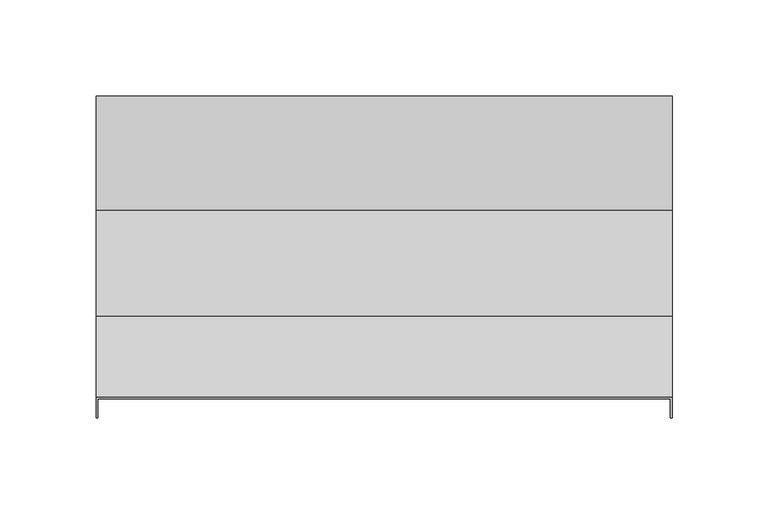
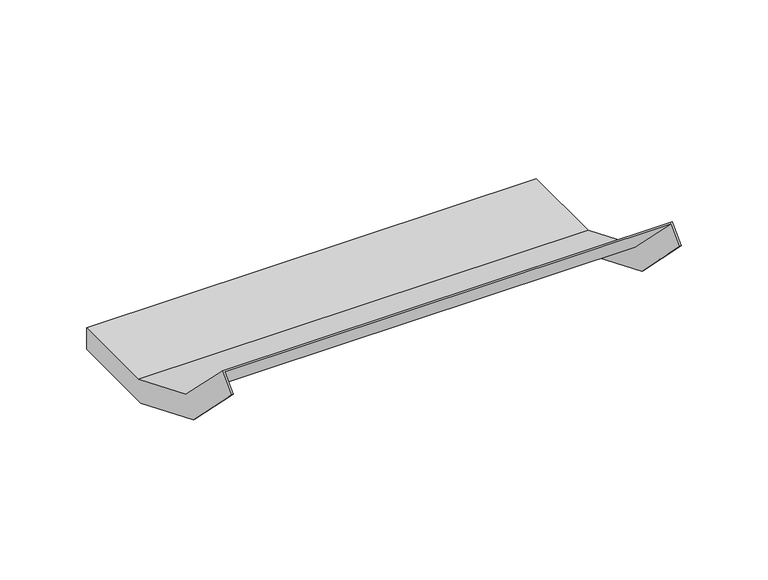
"""IFC4 building model written with IfcOpenShell, lengths in millimetres: proxy geometry, Cable_Tray_Cover_TCCERC45_Basortray : Basortray TCCERC45-300-GS."""

from ifc_helpers import new_model, si_unit, origin, place, context, project, spatial, faceted_brep, source, transform, mapped, element, save


def generic_models_6503f62f(model_context):
    return source(origin(), model_context, "Body", "Brep", [
        faceted_brep([(150.0, -157.152072, 66.0945196), (-150.0, -157.152072, 66.0945196), (-150.0, -167.7586738, 55.4879179), (-149.0, -167.7586738, 55.4879179), (-149.0, -157.8591788, 65.3874128), (149.0, -157.8591788, 65.3874128), (149.0, -167.7586738, 55.4879179), (150.0, -167.7586738, 55.4879179), (150.0, 0.0, 1.0), (150.0, 0.0, -14.0), (149.0, 0.0, -14.0), (149.0, 0.0, 0.0), (-149.0, 0.0, 0.0), (-149.0, 0.0, -14.0), (-150.0, 0.0, -14.0), (-150.0, 0.0, 1.0), (150.0, -114.8663175, 23.808765), (-150.0, -114.8663175, 23.808765), (-150.0, -59.8010876, 1.0), (-150.0, -62.7847731, -14.0), (-150.0, -123.3631349, 11.092379), (-149.0, -123.3631349, 11.092379), (-149.0, -62.7847731, -14.0), (-149.0, -60.0, 0.0), (-149.0, -115.432772, 22.9610059), (149.0, -115.432772, 22.9610059), (149.0, -60.0, 0.0), (149.0, -62.7847731, -14.0), (149.0, -123.3631349, 11.092379), (150.0, -123.3631349, 11.092379), (150.0, -62.7847731, -14.0), (150.0, -59.8010876, 1.0)], [[[0, 1, 2, 3, 4, 5, 6, 7]], [[8, 9, 10, 11, 12, 13, 14, 15]], [[1, 0, 16, 17]], [[2, 1, 17, 18, 15, 14, 19, 20]], [[3, 2, 20, 21]], [[4, 3, 21, 22, 13, 12, 23, 24]], [[5, 4, 24, 25]], [[6, 5, 25, 26, 11, 10, 27, 28]], [[7, 6, 28, 29]], [[0, 7, 29, 30, 9, 8, 31, 16]], [[17, 16, 31, 18]], [[21, 20, 19, 22]], [[25, 24, 23, 26]], [[29, 28, 27, 30]], [[18, 31, 8, 15]], [[22, 19, 14, 13]], [[26, 23, 12, 11]], [[30, 27, 10, 9]]]),
    ])


if __name__ == "__main__":
    model = new_model("IFC4")
    model_context = context("Model", 3, world=origin())
    ifc_project = project(units=[si_unit("LENGTHUNIT", "METRE", prefix="MILLI")], contexts=[model_context])
    site = spatial("IfcSite", under=ifc_project)
    building = spatial("IfcBuilding", under=site)
    placement = place(None, origin())
    generic_models_shape = generic_models_6503f62f(model_context)
    element("IfcBuildingElementProxy", 1, Name="Cable_Tray_Cover_TCCERC45_Basortray : Basortray TCCERC45-300-GS", ObjectType="Cable_Tray_Cover_TCCERC45_Basortray : Basortray TCCERC45-300-GS", at=placement, inside=building, context=model_context, shape_type="MappedRepresentation", body=[
        mapped(generic_models_shape, transform((0.0, 0.0, 0.0), x_axis=(1.0, 0.0, 0.0), y_axis=(0.0, 1.0, 0.0), z_axis=(0.0, 0.0, 1.0))),
    ])
    save(model, "model.ifc")
